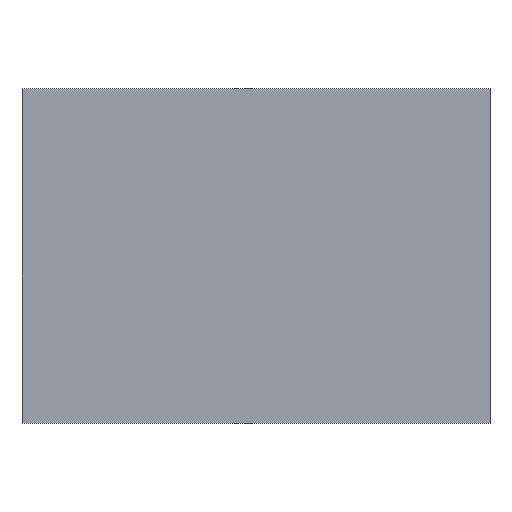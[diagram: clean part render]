
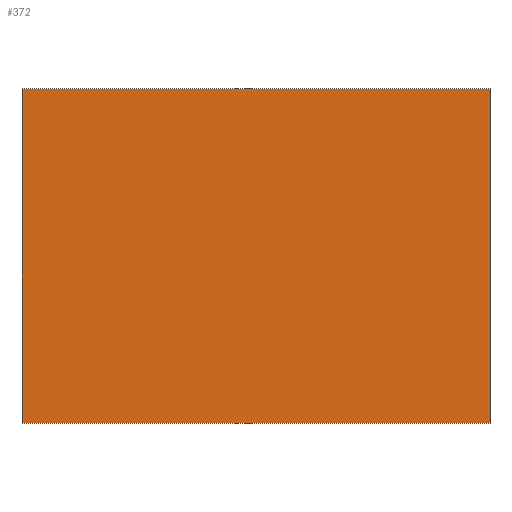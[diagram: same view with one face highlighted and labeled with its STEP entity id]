
A CAD part, top view. The second image highlights one B-rep face of the part: STEP entity #372.
In plain terms, the highlighted planar face has unit normal (0, 0, 1).
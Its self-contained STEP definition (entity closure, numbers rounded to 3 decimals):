
#58 = VERTEX_POINT('',#59);
#59 = CARTESIAN_POINT('',(-350.,-250.,750.));
#66 = PLANE('',#67);
#67 = AXIS2_PLACEMENT_3D('',#68,#69,#70);
#68 = CARTESIAN_POINT('',(-350.,-250.,720.));
#69 = DIRECTION('',(1.,0.,0.));
#70 = DIRECTION('',(0.,0.,1.));
#78 = PLANE('',#79);
#79 = AXIS2_PLACEMENT_3D('',#80,#81,#82);
#80 = CARTESIAN_POINT('',(-350.,-250.,720.));
#81 = DIRECTION('',(0.,1.,0.));
#82 = DIRECTION('',(0.,0.,1.));
#119 = VERTEX_POINT('',#120);
#120 = CARTESIAN_POINT('',(-350.,250.,750.));
#134 = PLANE('',#135);
#135 = AXIS2_PLACEMENT_3D('',#136,#137,#138);
#136 = CARTESIAN_POINT('',(-350.,250.,720.));
#137 = DIRECTION('',(0.,1.,0.));
#138 = DIRECTION('',(0.,0.,1.));
#146 = EDGE_CURVE('',#58,#119,#147,.T.);
#147 = SURFACE_CURVE('',#148,(#152,#159),.PCURVE_S1.);
#148 = LINE('',#149,#150);
#149 = CARTESIAN_POINT('',(-350.,-250.,750.));
#150 = VECTOR('',#151,1.);
#151 = DIRECTION('',(0.,1.,0.));
#152 = PCURVE('',#66,#153);
#153 = DEFINITIONAL_REPRESENTATION('',(#154),#158);
#154 = LINE('',#155,#156);
#155 = CARTESIAN_POINT('',(30.,0.));
#156 = VECTOR('',#157,1.);
#157 = DIRECTION('',(0.,-1.));
#158 = ( GEOMETRIC_REPRESENTATION_CONTEXT(2) 
PARAMETRIC_REPRESENTATION_CONTEXT() REPRESENTATION_CONTEXT('2D SPACE',''
  ) );
#159 = PCURVE('',#160,#165);
#160 = PLANE('',#161);
#161 = AXIS2_PLACEMENT_3D('',#162,#163,#164);
#162 = CARTESIAN_POINT('',(-350.,-250.,750.));
#163 = DIRECTION('',(0.,0.,1.));
#164 = DIRECTION('',(1.,0.,0.));
#165 = DEFINITIONAL_REPRESENTATION('',(#166),#170);
#166 = LINE('',#167,#168);
#167 = CARTESIAN_POINT('',(0.,0.));
#168 = VECTOR('',#169,1.);
#169 = DIRECTION('',(0.,1.));
#170 = ( GEOMETRIC_REPRESENTATION_CONTEXT(2) 
PARAMETRIC_REPRESENTATION_CONTEXT() REPRESENTATION_CONTEXT('2D SPACE',''
  ) );
#178 = VERTEX_POINT('',#179);
#179 = CARTESIAN_POINT('',(350.,-250.,750.));
#186 = PLANE('',#187);
#187 = AXIS2_PLACEMENT_3D('',#188,#189,#190);
#188 = CARTESIAN_POINT('',(350.,-250.,720.));
#189 = DIRECTION('',(1.,0.,0.));
#190 = DIRECTION('',(0.,0.,1.));
#229 = VERTEX_POINT('',#230);
#230 = CARTESIAN_POINT('',(350.,250.,750.));
#251 = EDGE_CURVE('',#178,#229,#252,.T.);
#252 = SURFACE_CURVE('',#253,(#257,#264),.PCURVE_S1.);
#253 = LINE('',#254,#255);
#254 = CARTESIAN_POINT('',(350.,-250.,750.));
#255 = VECTOR('',#256,1.);
#256 = DIRECTION('',(0.,1.,0.));
#257 = PCURVE('',#186,#258);
#258 = DEFINITIONAL_REPRESENTATION('',(#259),#263);
#259 = LINE('',#260,#261);
#260 = CARTESIAN_POINT('',(30.,0.));
#261 = VECTOR('',#262,1.);
#262 = DIRECTION('',(0.,-1.));
#263 = ( GEOMETRIC_REPRESENTATION_CONTEXT(2) 
PARAMETRIC_REPRESENTATION_CONTEXT() REPRESENTATION_CONTEXT('2D SPACE',''
  ) );
#264 = PCURVE('',#160,#265);
#265 = DEFINITIONAL_REPRESENTATION('',(#266),#270);
#266 = LINE('',#267,#268);
#267 = CARTESIAN_POINT('',(700.,0.));
#268 = VECTOR('',#269,1.);
#269 = DIRECTION('',(0.,1.));
#270 = ( GEOMETRIC_REPRESENTATION_CONTEXT(2) 
PARAMETRIC_REPRESENTATION_CONTEXT() REPRESENTATION_CONTEXT('2D SPACE',''
  ) );
#297 = EDGE_CURVE('',#58,#178,#298,.T.);
#298 = SURFACE_CURVE('',#299,(#303,#310),.PCURVE_S1.);
#299 = LINE('',#300,#301);
#300 = CARTESIAN_POINT('',(-350.,-250.,750.));
#301 = VECTOR('',#302,1.);
#302 = DIRECTION('',(1.,0.,0.));
#303 = PCURVE('',#78,#304);
#304 = DEFINITIONAL_REPRESENTATION('',(#305),#309);
#305 = LINE('',#306,#307);
#306 = CARTESIAN_POINT('',(30.,0.));
#307 = VECTOR('',#308,1.);
#308 = DIRECTION('',(0.,1.));
#309 = ( GEOMETRIC_REPRESENTATION_CONTEXT(2) 
PARAMETRIC_REPRESENTATION_CONTEXT() REPRESENTATION_CONTEXT('2D SPACE',''
  ) );
#310 = PCURVE('',#160,#311);
#311 = DEFINITIONAL_REPRESENTATION('',(#312),#316);
#312 = LINE('',#313,#314);
#313 = CARTESIAN_POINT('',(0.,0.));
#314 = VECTOR('',#315,1.);
#315 = DIRECTION('',(1.,0.));
#316 = ( GEOMETRIC_REPRESENTATION_CONTEXT(2) 
PARAMETRIC_REPRESENTATION_CONTEXT() REPRESENTATION_CONTEXT('2D SPACE',''
  ) );
#344 = EDGE_CURVE('',#119,#229,#345,.T.);
#345 = SURFACE_CURVE('',#346,(#350,#357),.PCURVE_S1.);
#346 = LINE('',#347,#348);
#347 = CARTESIAN_POINT('',(-350.,250.,750.));
#348 = VECTOR('',#349,1.);
#349 = DIRECTION('',(1.,0.,0.));
#350 = PCURVE('',#134,#351);
#351 = DEFINITIONAL_REPRESENTATION('',(#352),#356);
#352 = LINE('',#353,#354);
#353 = CARTESIAN_POINT('',(30.,0.));
#354 = VECTOR('',#355,1.);
#355 = DIRECTION('',(0.,1.));
#356 = ( GEOMETRIC_REPRESENTATION_CONTEXT(2) 
PARAMETRIC_REPRESENTATION_CONTEXT() REPRESENTATION_CONTEXT('2D SPACE',''
  ) );
#357 = PCURVE('',#160,#358);
#358 = DEFINITIONAL_REPRESENTATION('',(#359),#363);
#359 = LINE('',#360,#361);
#360 = CARTESIAN_POINT('',(0.,500.));
#361 = VECTOR('',#362,1.);
#362 = DIRECTION('',(1.,0.));
#363 = ( GEOMETRIC_REPRESENTATION_CONTEXT(2) 
PARAMETRIC_REPRESENTATION_CONTEXT() REPRESENTATION_CONTEXT('2D SPACE',''
  ) );
#372 = ADVANCED_FACE('',(#373),#160,.T.);
#373 = FACE_BOUND('',#374,.T.);
#374 = EDGE_LOOP('',(#375,#376,#377,#378));
#375 = ORIENTED_EDGE('',*,*,#146,.F.);
#376 = ORIENTED_EDGE('',*,*,#297,.T.);
#377 = ORIENTED_EDGE('',*,*,#251,.T.);
#378 = ORIENTED_EDGE('',*,*,#344,.F.);
